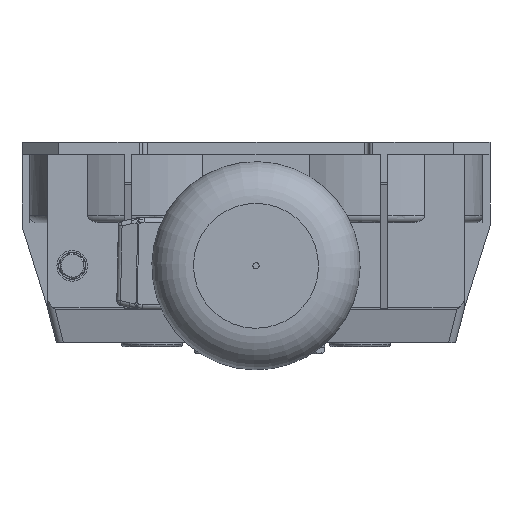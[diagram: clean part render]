
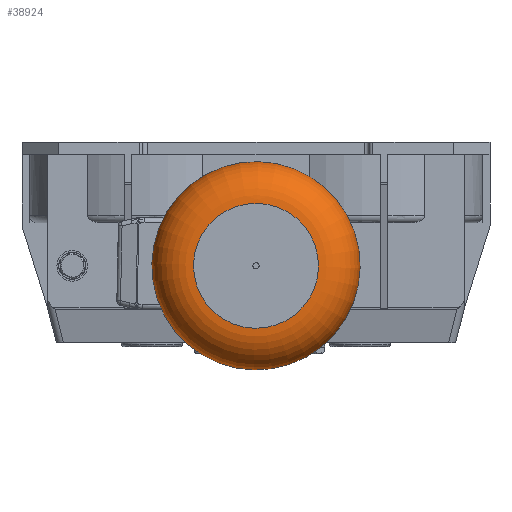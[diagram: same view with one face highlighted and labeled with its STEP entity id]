
A CAD part, front view. The second image highlights one B-rep face of the part: STEP entity #38924.
In plain terms, the highlighted toroidal (fillet/blend) face has major radius 51 mm and minor radius 34 mm.
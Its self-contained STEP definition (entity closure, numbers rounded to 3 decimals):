
#38897=CARTESIAN_POINT('',(346.0,0.0,0.0));
#38898=DIRECTION('',(1.0,0.0,0.0));
#38899=DIRECTION('',(0.0,0.0,-1.0));
#38900=AXIS2_PLACEMENT_3D('',#38897,#38898,#38899);
#38901=TOROIDAL_SURFACE('',#38900,51.,34.0);
#38902=CARTESIAN_POINT('',(380.0,51.,0.0));
#38903=VERTEX_POINT('',#38902);
#38904=CARTESIAN_POINT('',(380.0,0.0,0.0));
#38905=DIRECTION('',(1.0,0.0,0.0));
#38906=DIRECTION('',(0.0,1.0,0.0));
#38907=AXIS2_PLACEMENT_3D('',#38904,#38905,#38906);
#38908=CIRCLE('',#38907,51.);
#38909=EDGE_CURVE('',#38903,#38903,#38908,.T.);
#38910=ORIENTED_EDGE('',*,*,#38909,.F.);
#38911=EDGE_LOOP('',(#38910));
#38912=FACE_OUTER_BOUND('',#38911,.T.);
#38913=CARTESIAN_POINT('',(346.0,85.,0.0));
#38914=VERTEX_POINT('',#38913);
#38915=CARTESIAN_POINT('',(346.0,0.0,0.0));
#38916=DIRECTION('',(1.0,0.0,0.0));
#38917=DIRECTION('',(0.0,1.0,0.0));
#38918=AXIS2_PLACEMENT_3D('',#38915,#38916,#38917);
#38919=CIRCLE('',#38918,85.);
#38920=EDGE_CURVE('',#38914,#38914,#38919,.T.);
#38921=ORIENTED_EDGE('',*,*,#38920,.T.);
#38922=EDGE_LOOP('',(#38921));
#38923=FACE_BOUND('',#38922,.T.);
#38924=ADVANCED_FACE('',(#38912,#38923),#38901,.T.);
